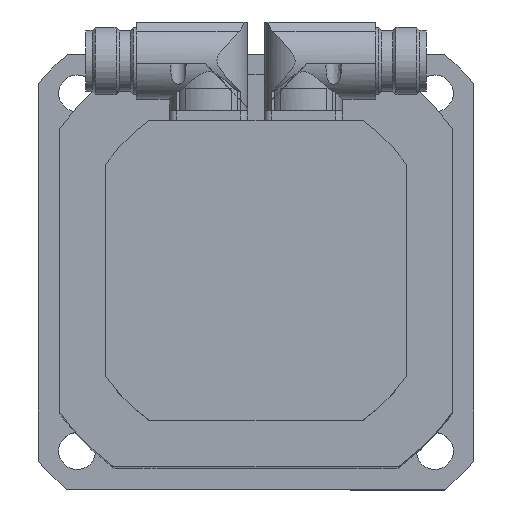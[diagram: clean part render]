
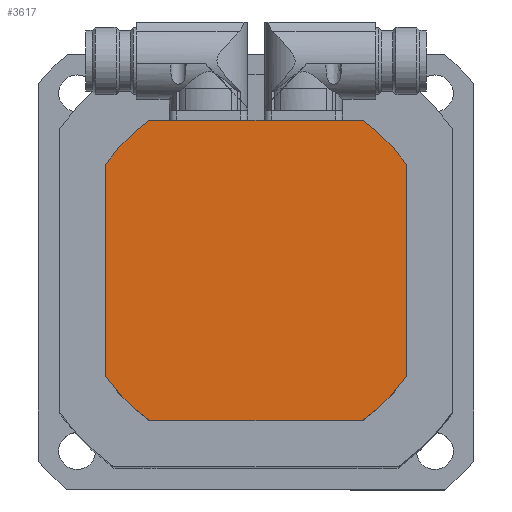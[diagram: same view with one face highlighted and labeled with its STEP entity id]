
A CAD part, top view. The second image highlights one B-rep face of the part: STEP entity #3617.
In plain terms, the highlighted planar face has unit normal (0, 0, 1).
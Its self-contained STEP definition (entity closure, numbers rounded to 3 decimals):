
#749=PLANE('',#3853);
#835=CIRCLE('',#3846,60.);
#836=CIRCLE('',#3848,60.);
#837=CIRCLE('',#3850,60.);
#838=CIRCLE('',#3852,60.);
#1076=VECTOR('',#4429,1.);
#1079=VECTOR('',#4433,1.);
#1082=VECTOR('',#4451,1.);
#1085=VECTOR('',#4455,1.);
#1323=LINE('',#5658,#1076);
#1326=LINE('',#5664,#1079);
#1329=LINE('',#5682,#1082);
#1332=LINE('',#5688,#1085);
#1569=VERTEX_POINT('',#5657);
#1570=VERTEX_POINT('',#5659);
#1571=VERTEX_POINT('',#5663);
#1572=VERTEX_POINT('',#5665);
#1577=VERTEX_POINT('',#5681);
#1578=VERTEX_POINT('',#5683);
#1579=VERTEX_POINT('',#5687);
#1580=VERTEX_POINT('',#5689);
#1977=EDGE_CURVE('',#1570,#1569,#1323,.T.);
#1980=EDGE_CURVE('',#1572,#1571,#1326,.T.);
#1987=EDGE_CURVE('',#1578,#1577,#1329,.T.);
#1990=EDGE_CURVE('',#1580,#1579,#1332,.T.);
#1992=EDGE_CURVE('',#1572,#1579,#835,.T.);
#1993=EDGE_CURVE('',#1578,#1571,#836,.T.);
#1994=EDGE_CURVE('',#1570,#1577,#837,.T.);
#1995=EDGE_CURVE('',#1580,#1569,#838,.T.);
#2680=ORIENTED_EDGE('',*,*,#1977,.T.);
#2681=ORIENTED_EDGE('',*,*,#1995,.F.);
#2682=ORIENTED_EDGE('',*,*,#1990,.T.);
#2683=ORIENTED_EDGE('',*,*,#1992,.F.);
#2684=ORIENTED_EDGE('',*,*,#1980,.T.);
#2685=ORIENTED_EDGE('',*,*,#1993,.F.);
#2686=ORIENTED_EDGE('',*,*,#1987,.T.);
#2687=ORIENTED_EDGE('',*,*,#1994,.F.);
#3193=EDGE_LOOP('',(#2680,#2681,#2682,#2683,#2684,#2685,#2686,#2687));
#3419=FACE_BOUND('',#3193,.T.);
#3617=ADVANCED_FACE('',(#3419),#749,.F.);
#3846=AXIS2_PLACEMENT_3D('',#5692,#4459,#4460);
#3848=AXIS2_PLACEMENT_3D('',#5694,#4463,#4464);
#3850=AXIS2_PLACEMENT_3D('',#5696,#4467,#4468);
#3852=AXIS2_PLACEMENT_3D('',#5698,#4471,#4472);
#3853=AXIS2_PLACEMENT_3D('',#5699,#4473,$);
#4429=DIRECTION('',(0.,-1.,0.));
#4433=DIRECTION('',(0.,1.,0.));
#4451=DIRECTION('',(-1.,0.,0.));
#4455=DIRECTION('',(1.,0.,0.));
#4459=DIRECTION('',(0.,0.,-1.));
#4460=DIRECTION('',(-60.,0.,0.));
#4463=DIRECTION('',(0.,0.,-1.));
#4464=DIRECTION('',(-60.,0.,0.));
#4467=DIRECTION('',(0.,0.,-1.));
#4468=DIRECTION('',(-60.,0.,0.));
#4471=DIRECTION('',(0.,0.,-1.));
#4472=DIRECTION('',(-60.,0.,0.));
#4473=DIRECTION('',(0.,0.,-1.));
#5657=CARTESIAN_POINT('',(-49.,-34.627,45.));
#5658=CARTESIAN_POINT('',(-49.,34.627,45.));
#5659=CARTESIAN_POINT('',(-49.,34.627,45.));
#5663=CARTESIAN_POINT('',(49.,34.627,45.));
#5664=CARTESIAN_POINT('',(49.,-34.627,45.));
#5665=CARTESIAN_POINT('',(49.,-34.627,45.));
#5681=CARTESIAN_POINT('',(-34.627,49.,45.));
#5682=CARTESIAN_POINT('',(34.627,49.,45.));
#5683=CARTESIAN_POINT('',(34.627,49.,45.));
#5687=CARTESIAN_POINT('',(34.627,-49.,45.));
#5688=CARTESIAN_POINT('',(-34.627,-49.,45.));
#5689=CARTESIAN_POINT('',(-34.627,-49.,45.));
#5692=CARTESIAN_POINT('',(0.,0.,45.));
#5694=CARTESIAN_POINT('',(0.,0.,45.));
#5696=CARTESIAN_POINT('',(0.,0.,45.));
#5698=CARTESIAN_POINT('',(0.,0.,45.));
#5699=CARTESIAN_POINT('',(0.,0.,45.));
